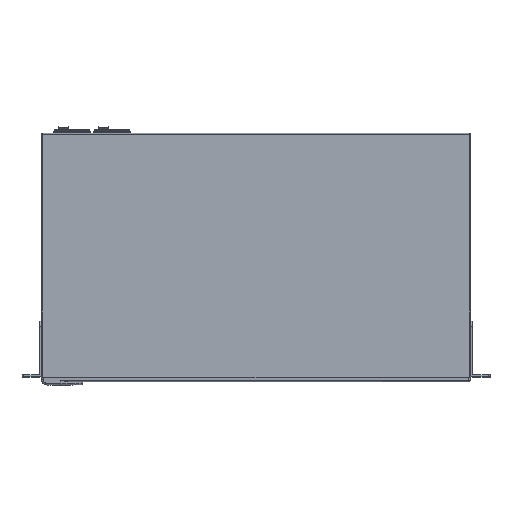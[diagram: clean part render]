
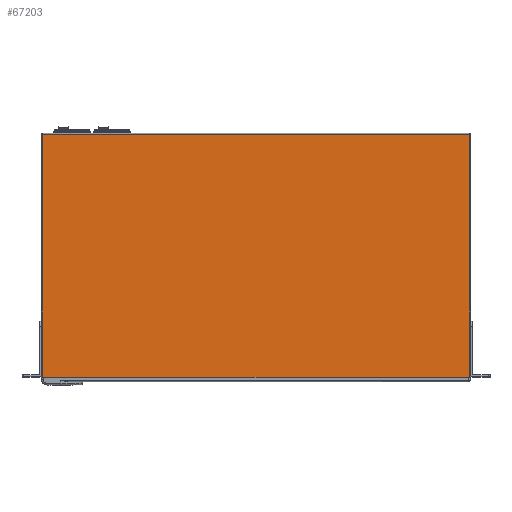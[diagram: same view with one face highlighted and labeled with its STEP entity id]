
A CAD part, top view. The second image highlights one B-rep face of the part: STEP entity #67203.
In plain terms, the highlighted planar face has unit normal (0, 0, 1).
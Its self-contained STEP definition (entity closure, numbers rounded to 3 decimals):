
#11062=DIRECTION('',(1.,0.,0.));
#11063=VECTOR('',#11062,437.004);
#11064=CARTESIAN_POINT('',(-218.502,-0.25,
45.5));
#11065=LINE('',#11064,#11063);
#14821=DIRECTION('',(1.,0.,0.));
#14822=VECTOR('',#14821,0.498);
#14823=CARTESIAN_POINT('',(-219.,-0.25,45.5));
#14824=LINE('',#14823,#14822);
#14825=DIRECTION('',(-1.,0.,0.));
#14826=VECTOR('',#14825,0.3);
#14827=CARTESIAN_POINT('',(-218.7,248.75,45.5));
#14828=LINE('',#14827,#14826);
#14829=DIRECTION('',(-1.,0.,0.));
#14830=VECTOR('',#14829,0.3);
#14831=CARTESIAN_POINT('',(219.,248.75,45.5));
#14832=LINE('',#14831,#14830);
#14833=DIRECTION('',(1.,0.,0.));
#14834=VECTOR('',#14833,0.498);
#14835=CARTESIAN_POINT('',(218.502,-0.25,
45.5));
#14836=LINE('',#14835,#14834);
#14841=DIRECTION('',(1.,0.,0.));
#14842=VECTOR('',#14841,437.4);
#14843=CARTESIAN_POINT('',(-218.7,248.75,45.5));
#14844=LINE('',#14843,#14842);
#16159=DIRECTION('',(0.,1.,0.));
#16160=VECTOR('',#16159,249.);
#16161=CARTESIAN_POINT('',(-219.,-0.25,45.5));
#16162=LINE('',#16161,#16160);
#17640=DIRECTION('',(0.,-1.,0.));
#17641=VECTOR('',#17640,249.);
#17642=CARTESIAN_POINT('',(219.,248.75,45.5));
#17643=LINE('',#17642,#17641);
#37616=CARTESIAN_POINT('',(-218.7,248.75,45.5));
#37617=CARTESIAN_POINT('',(218.7,248.75,45.5));
#37618=VERTEX_POINT('',#37616);
#37619=VERTEX_POINT('',#37617);
#37620=CARTESIAN_POINT('',(219.,248.75,45.5));
#37621=VERTEX_POINT('',#37620);
#37622=CARTESIAN_POINT('',(-219.,248.75,45.5));
#37623=VERTEX_POINT('',#37622);
#37626=CARTESIAN_POINT('',(-219.,-0.25,45.5));
#37627=VERTEX_POINT('',#37626);
#37628=CARTESIAN_POINT('',(219.,-0.25,45.5));
#37629=VERTEX_POINT('',#37628);
#43594=CARTESIAN_POINT('',(-218.502,-0.25,
45.5));
#43595=CARTESIAN_POINT('',(218.502,-0.25,
45.5));
#43596=VERTEX_POINT('',#43594);
#43597=VERTEX_POINT('',#43595);
#67181=CARTESIAN_POINT('',(0.,-0.25,45.5));
#67182=DIRECTION('',(0.,0.,1.));
#67183=DIRECTION('',(1.,0.,0.));
#67184=AXIS2_PLACEMENT_3D('',#67181,#67182,#67183);
#67185=PLANE('',#67184);
#67186=ORIENTED_EDGE('',*,*,#59920,.F.);
#67188=ORIENTED_EDGE('',*,*,#67187,.F.);
#67190=ORIENTED_EDGE('',*,*,#67189,.T.);
#67192=ORIENTED_EDGE('',*,*,#67191,.F.);
#67194=ORIENTED_EDGE('',*,*,#67193,.T.);
#67196=ORIENTED_EDGE('',*,*,#67195,.F.);
#67198=ORIENTED_EDGE('',*,*,#67197,.T.);
#67200=ORIENTED_EDGE('',*,*,#67199,.F.);
#67201=EDGE_LOOP('',(#67186,#67188,#67190,#67192,#67194,#67196,#67198,#67200));
#67202=FACE_OUTER_BOUND('',#67201,.F.);
#67203=ADVANCED_FACE('',(#67202),#67185,.T.);
#59920=EDGE_CURVE('',#43596,#43597,#11065,.T.);
#67187=EDGE_CURVE('',#37627,#43596,#14824,.T.);
#67189=EDGE_CURVE('',#37627,#37623,#16162,.T.);
#67191=EDGE_CURVE('',#37618,#37623,#14828,.T.);
#67193=EDGE_CURVE('',#37618,#37619,#14844,.T.);
#67195=EDGE_CURVE('',#37621,#37619,#14832,.T.);
#67197=EDGE_CURVE('',#37621,#37629,#17643,.T.);
#67199=EDGE_CURVE('',#43597,#37629,#14836,.T.);
